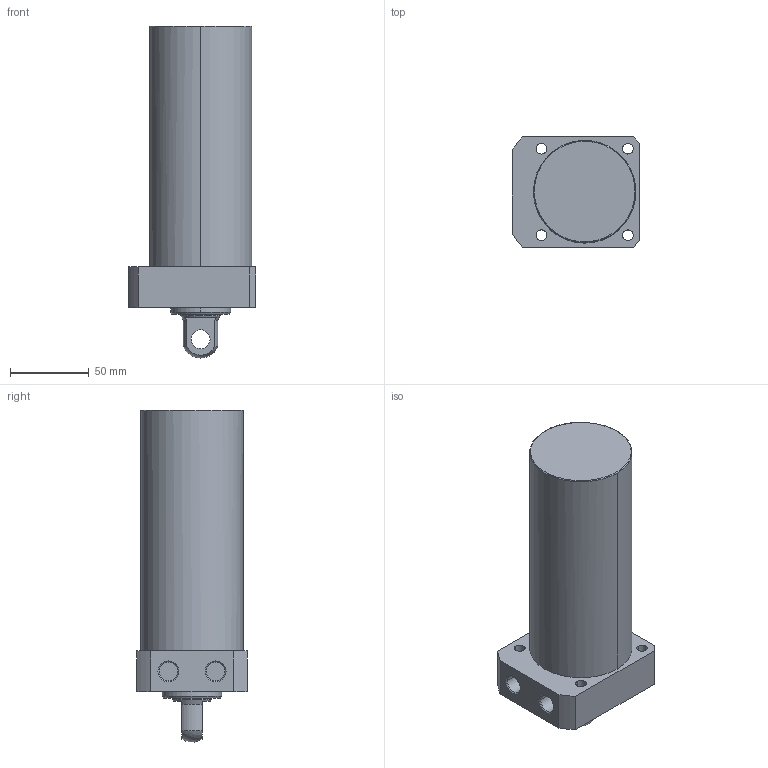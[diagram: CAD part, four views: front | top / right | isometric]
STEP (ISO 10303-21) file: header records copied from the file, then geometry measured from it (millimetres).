
FILE_DESCRIPTION((' '),'2;1');
FILE_NAME( 'TLLR-065CP-120.STEP.stp', '2025-10-24T16:35:04', (' '), ('--- Datakit www.datakit.com---'), ' Datakit CrossCadWare V2024.1 Dec 21 2023', 'Mastercam 2025', ' ');
FILE_SCHEMA(('AUTOMOTIVE_DESIGN { 1 0 10303 214 1 1 1 1 }'));
Length unit declared in the file: millimetre
Products named in the file (1): TLLR-065CP-120
Bounding box: 81 x 70 x 210.92 mm (x, y, z)
Volume: 655331.8 mm3; surface area: 55607.2 mm2
Topology: 1 solids, 1 shells, 57 faces, 164 edges, 116 vertices
Faces by surface type: cylinder 28, plane 18, cone 8, torus 2, sphere 1
Entity records: 2006 total; most frequent: DIRECTION 378, CARTESIAN_POINT 350, ORIENTED_EDGE 328, EDGE_CURVE 164, AXIS2_PLACEMENT_3D 160, VERTEX_POINT 116, CIRCLE 102, EDGE_LOOP 74
